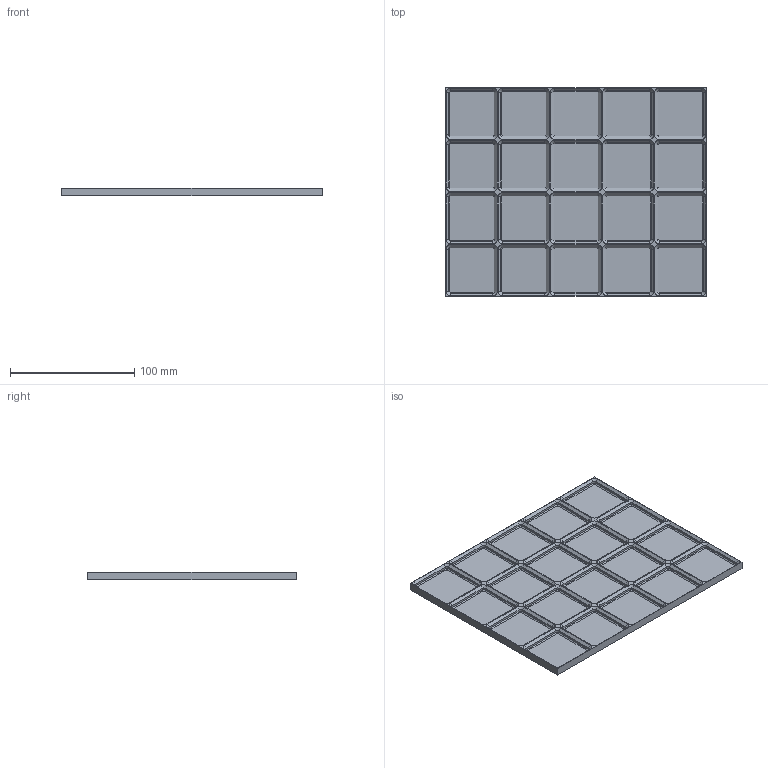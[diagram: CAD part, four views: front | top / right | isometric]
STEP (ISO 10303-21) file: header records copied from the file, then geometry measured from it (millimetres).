
FILE_DESCRIPTION(('Open CASCADE Model'),'2;1');
FILE_NAME('Open CASCADE Shape Model','2026-11-03T10:22:53',('Author'),( 'Open CASCADE'),'Open CASCADE STEP processor 8.0','build123d', 'Unknown');
FILE_SCHEMA(('AUTOMOTIVE_DESIGN { 1 0 10303 214 1 1 1 1 }'));
Length unit declared in the file: millimetre
Products named in the file (1): COMPOUND
Bounding box: 210 x 168 x 6.4 mm (x, y, z)
Volume: 97005.9 mm3; surface area: 83960.2 mm2
Topology: 1 solids, 1 shells, 506 faces, 1132 edges, 648 vertices
Faces by surface type: plane 266, cone 160, cylinder 80
Entity records: 26762 total; most frequent: CARTESIAN_POINT 6151, DIRECTION 3130, ORIENTED_EDGE 2264, PCURVE 2264, DEFINITIONAL_REPRESENTATION 2264, B_SPLINE_CURVE_WITH_KNOTS 1600, LINE 1316, VECTOR 1316
